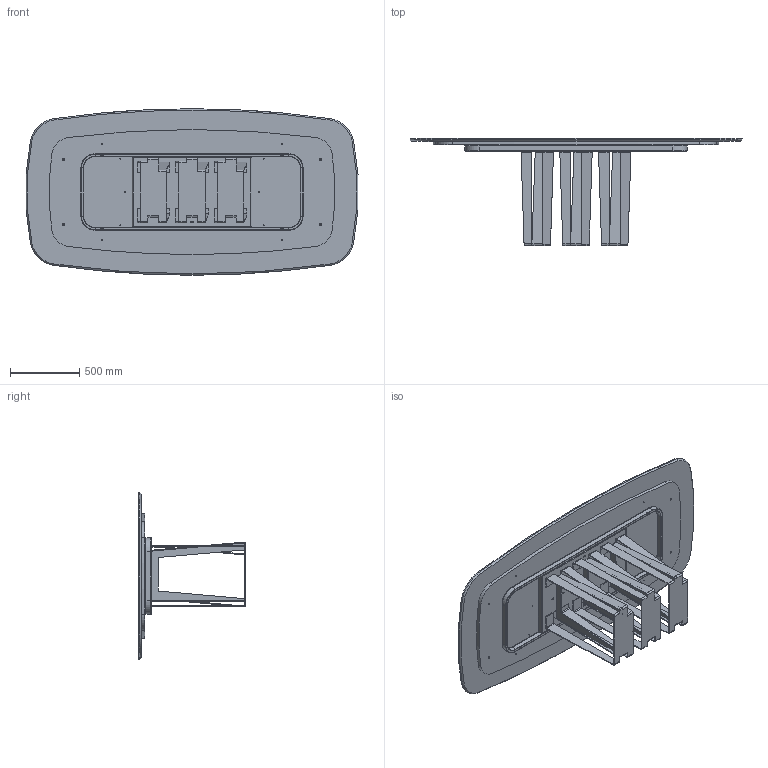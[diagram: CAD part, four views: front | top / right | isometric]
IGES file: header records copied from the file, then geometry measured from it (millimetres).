
Start section: SolidWorks IGES file using analytic representation for surfaces
Global section: file name: Y:\eforma\TECNICO\SOLIDWORKS\E-FORMA\1-TAVOLI\NARCISO\02 parts\NA43M.IGS; native system: SolidWorks 2022; preprocessor: SolidWorks 2022; author: eforma.tech; date: 240807.164139; units: millimetre
Bounding box: 2391.9 x 770 x 1200 mm (x, y, z)
Volume: 107403694.9 mm3; surface area: 13896626.3 mm2
Topology: 27 solids, 27 shells, 1188 faces, 2914 edges, 1751 vertices
Faces by surface type: plane 579, revolution 573, bspline 36
